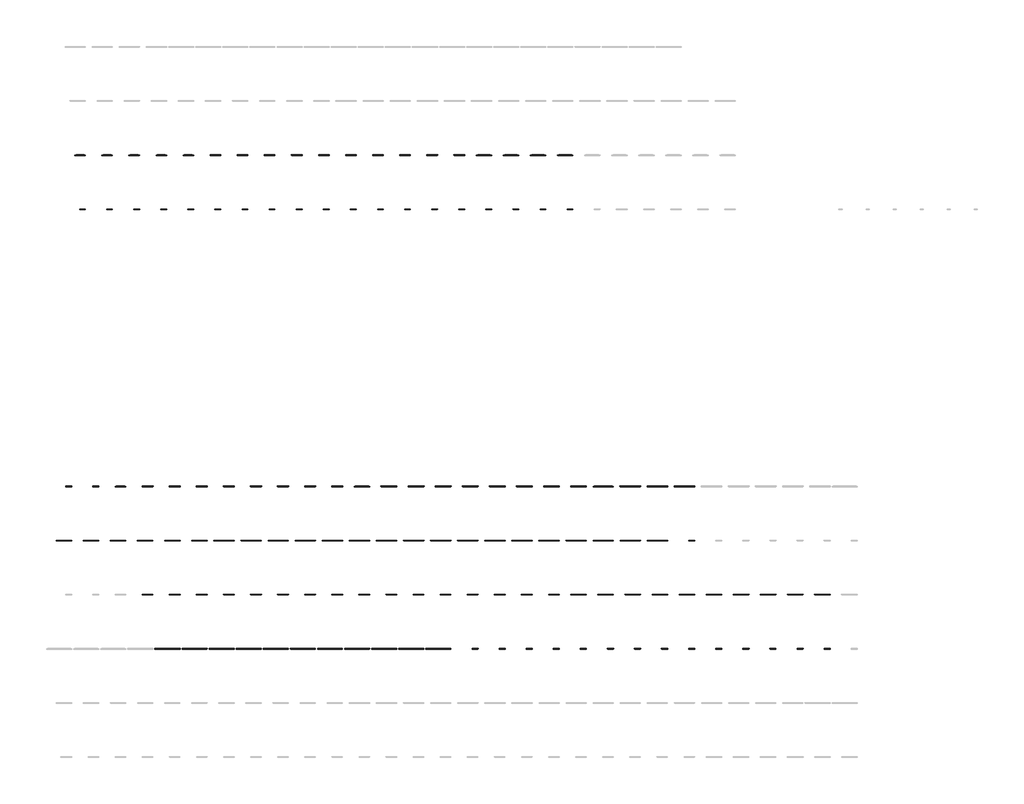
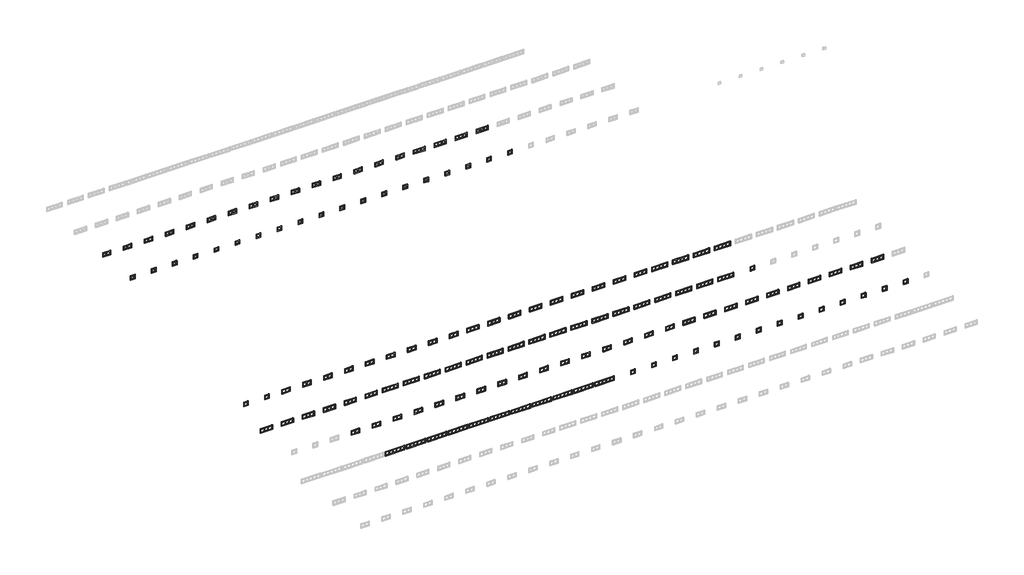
# One storey, part 3 of 18: 137 proxies.
"""IFC4 building model written with IfcOpenShell, lengths in millimetres."""

from ifc_helpers import new_model, si_unit, origin, place, context, project, spatial, transform, mapped, element, save
from components import electrical_fixtures_237118b2, electrical_fixtures_5dbdf89e, electrical_fixtures_96edac8a, electrical_fixtures_84155418, electrical_fixtures_1861e07e, electrical_fixtures_aad822a1, electrical_fixtures_fd6ee7d0, electrical_fixtures_76136ebe, electrical_fixtures_1d4d6cfc, electrical_fixtures_f44dfe37, electrical_fixtures_55454e97, electrical_fixtures_1388bda7, electrical_fixtures_9b7fceb6, electrical_fixtures_3838953b, electrical_fixtures_62e152b0, electrical_fixtures_36178a4c, electrical_fixtures_b3d71306, electrical_fixtures_850c403c, electrical_fixtures_cb041ce0, electrical_fixtures_aba3774c, electrical_fixtures_dbfd30bd

model = new_model("IFC4")

# Units and contexts
model_context = context("Model", 3, world=origin())
ifc_project = project(units=[si_unit("LENGTHUNIT", "METRE", prefix="MILLI")], contexts=[model_context])

# Site, building, storey
site = spatial("IfcSite", under=ifc_project)
building = spatial("IfcBuilding", under=site)
storey = spatial("IfcBuildingStorey", under=building, Name="Этаж 01", Elevation=0.0)

# Proxies
placement = place(None, origin())
electrical_fixtures_shape = electrical_fixtures_237118b2(model_context)
element("IfcBuildingElementProxy", 1, Name="IEK_Brite_Рамка : x5_РУ-5-Бр беж. рифленый", ObjectType="IEK_Brite_Рамка : x5_РУ-5-Бр беж. рифленый", at=placement, inside=storey, context=model_context, shape_type="MappedRepresentation", body=[
    mapped(electrical_fixtures_shape, transform((2020.0, -15400.0, 0.0), x_axis=(1.0, 0.0, 0.0), y_axis=(0.0, 1.0, 0.0), z_axis=(0.0, 0.0, 1.0))),
])
electrical_fixtures_2_shape = electrical_fixtures_5dbdf89e(model_context)
element("IfcBuildingElementProxy", 2, Name="IEK_Brite_Рамка : x5_РУ-5-БрБ бел.", ObjectType="IEK_Brite_Рамка : x5_РУ-5-БрБ бел.", at=placement, inside=storey, context=model_context, shape_type="MappedRepresentation", body=[
    mapped(electrical_fixtures_2_shape, transform((2420.0, -15400.0, 0.0), x_axis=(1.0, 0.0, 0.0), y_axis=(0.0, 1.0, 0.0), z_axis=(0.0, 0.0, 1.0))),
])
element("IfcBuildingElementProxy", 3, Name="IEK_Brite_Рамка : x5_РУ-5-БрЧ черн.", ObjectType="IEK_Brite_Рамка : x5_РУ-5-БрЧ черн.", at=placement, inside=storey, context=model_context, shape_type="MappedRepresentation", body=[
    mapped(electrical_fixtures_2_shape, transform((2820.0, -15400.0, 0.0), x_axis=(1.0, 0.0, 0.0), y_axis=(0.0, 1.0, 0.0), z_axis=(0.0, 0.0, 1.0))),
])
element("IfcBuildingElementProxy", 4, Name="IEK_Brite_Рамка : x5_РУ-5-БрКр беж.", ObjectType="IEK_Brite_Рамка : x5_РУ-5-БрКр беж.", at=placement, inside=storey, context=model_context, shape_type="MappedRepresentation", body=[
    mapped(electrical_fixtures_2_shape, transform((3220.0, -15400.0, 0.0), x_axis=(1.0, 0.0, 0.0), y_axis=(0.0, 1.0, 0.0), z_axis=(0.0, 0.0, 1.0))),
])
element("IfcBuildingElementProxy", 5, Name="IEK_Brite_Рамка : x5_РУ-5-БрМ мар.", ObjectType="IEK_Brite_Рамка : x5_РУ-5-БрМ мар.", at=placement, inside=storey, context=model_context, shape_type="MappedRepresentation", body=[
    mapped(electrical_fixtures_2_shape, transform((3620.0, -15400.0, 0.0), x_axis=(1.0, 0.0, 0.0), y_axis=(0.0, 1.0, 0.0), z_axis=(0.0, 0.0, 1.0))),
])
element("IfcBuildingElementProxy", 6, Name="IEK_Brite_Рамка : x5_РУ-5-БрЖ жемч.", ObjectType="IEK_Brite_Рамка : x5_РУ-5-БрЖ жемч.", at=placement, inside=storey, context=model_context, shape_type="MappedRepresentation", body=[
    mapped(electrical_fixtures_2_shape, transform((4020.0, -15400.0, 0.0), x_axis=(1.0, 0.0, 0.0), y_axis=(0.0, 1.0, 0.0), z_axis=(0.0, 0.0, 1.0))),
])
element("IfcBuildingElementProxy", 7, Name="IEK_Brite_Рамка : x5_РУ-5-БрШ шамп.", ObjectType="IEK_Brite_Рамка : x5_РУ-5-БрШ шамп.", at=placement, inside=storey, context=model_context, shape_type="MappedRepresentation", body=[
    mapped(electrical_fixtures_2_shape, transform((4420.0, -15400.0, 0.0), x_axis=(1.0, 0.0, 0.0), y_axis=(0.0, 1.0, 0.0), z_axis=(0.0, 0.0, 1.0))),
])
element("IfcBuildingElementProxy", 8, Name="IEK_Brite_Рамка : x5_РУ-5-БрТБ бр.", ObjectType="IEK_Brite_Рамка : x5_РУ-5-БрТБ бр.", at=placement, inside=storey, context=model_context, shape_type="MappedRepresentation", body=[
    mapped(electrical_fixtures_2_shape, transform((4820.0, -15400.0, 0.0), x_axis=(1.0, 0.0, 0.0), y_axis=(0.0, 1.0, 0.0), z_axis=(0.0, 0.0, 1.0))),
])
element("IfcBuildingElementProxy", 9, Name="IEK_Brite_Рамка : x5_РУ-5-БрС сталь", ObjectType="IEK_Brite_Рамка : x5_РУ-5-БрС сталь", at=placement, inside=storey, context=model_context, shape_type="MappedRepresentation", body=[
    mapped(electrical_fixtures_2_shape, transform((5220.0, -15400.0, 0.0), x_axis=(1.0, 0.0, 0.0), y_axis=(0.0, 1.0, 0.0), z_axis=(0.0, 0.0, 1.0))),
])
element("IfcBuildingElementProxy", 10, Name="IEK_Brite_Рамка : x5_РУ-5-БрА алюм.", ObjectType="IEK_Brite_Рамка : x5_РУ-5-БрА алюм.", at=placement, inside=storey, context=model_context, shape_type="MappedRepresentation", body=[
    mapped(electrical_fixtures_2_shape, transform((5620.0, -15400.0, 0.0), x_axis=(1.0, 0.0, 0.0), y_axis=(0.0, 1.0, 0.0), z_axis=(0.0, 0.0, 1.0))),
])
element("IfcBuildingElementProxy", 11, Name="IEK_Brite_Рамка : x5_РУ-5-БрГ граф.", ObjectType="IEK_Brite_Рамка : x5_РУ-5-БрГ граф.", at=placement, inside=storey, context=model_context, shape_type="MappedRepresentation", body=[
    mapped(electrical_fixtures_2_shape, transform((6020.0, -15400.0, 0.0), x_axis=(1.0, 0.0, 0.0), y_axis=(0.0, 1.0, 0.0), z_axis=(0.0, 0.0, 1.0))),
])
electrical_fixtures_3_shape = electrical_fixtures_96edac8a(model_context)
element("IfcBuildingElementProxy", 12, Name="IEK_Brite_Рамка : x1_РУ-1-2-Бр стекло бел. матовый", ObjectType="IEK_Brite_Рамка : x1_РУ-1-2-Бр стекло бел. матовый", at=placement, inside=storey, context=model_context, shape_type="MappedRepresentation", body=[
    mapped(electrical_fixtures_3_shape, transform((6420.0, -15400.0, 0.0), x_axis=(1.0, 0.0, 0.0), y_axis=(0.0, 1.0, 0.0), z_axis=(0.0, 0.0, 1.0))),
])
element("IfcBuildingElementProxy", 13, Name="IEK_Brite_Рамка : x1_РУ-1-2-Бр стекло черн. матовый", ObjectType="IEK_Brite_Рамка : x1_РУ-1-2-Бр стекло черн. матовый", at=placement, inside=storey, context=model_context, shape_type="MappedRepresentation", body=[
    mapped(electrical_fixtures_3_shape, transform((6820.0, -15400.0, 0.0), x_axis=(1.0, 0.0, 0.0), y_axis=(0.0, 1.0, 0.0), z_axis=(0.0, 0.0, 1.0))),
])
element("IfcBuildingElementProxy", 14, Name="IEK_Brite_Рамка : x1_РУ-1-2-Бр стекло розовый матовый", ObjectType="IEK_Brite_Рамка : x1_РУ-1-2-Бр стекло розовый матовый", at=placement, inside=storey, context=model_context, shape_type="MappedRepresentation", body=[
    mapped(electrical_fixtures_3_shape, transform((7220.0, -15400.0, 0.0), x_axis=(1.0, 0.0, 0.0), y_axis=(0.0, 1.0, 0.0), z_axis=(0.0, 0.0, 1.0))),
])
element("IfcBuildingElementProxy", 15, Name="IEK_Brite_Рамка : x1_РУ-1-2-Бр стекло маренго матовый", ObjectType="IEK_Brite_Рамка : x1_РУ-1-2-Бр стекло маренго матовый", at=placement, inside=storey, context=model_context, shape_type="MappedRepresentation", body=[
    mapped(electrical_fixtures_3_shape, transform((7620.0, -15400.0, 0.0), x_axis=(1.0, 0.0, 0.0), y_axis=(0.0, 1.0, 0.0), z_axis=(0.0, 0.0, 1.0))),
])
element("IfcBuildingElementProxy", 16, Name="IEK_Brite_Рамка : x1_РУ-1-2-БрП стекло персиковый матовый", ObjectType="IEK_Brite_Рамка : x1_РУ-1-2-БрП стекло персиковый матовый", at=placement, inside=storey, context=model_context, shape_type="MappedRepresentation", body=[
    mapped(electrical_fixtures_3_shape, transform((8020.0, -15400.0, 0.0), x_axis=(1.0, 0.0, 0.0), y_axis=(0.0, 1.0, 0.0), z_axis=(0.0, 0.0, 1.0))),
])
electrical_fixtures_4_shape = electrical_fixtures_84155418(model_context)
element("IfcBuildingElementProxy", 17, Name="IEK_Brite_Рамка : x1_РУ-1-2-Бр стекло бел. RE", ObjectType="IEK_Brite_Рамка : x1_РУ-1-2-Бр стекло бел. RE", at=placement, inside=storey, context=model_context, shape_type="MappedRepresentation", body=[
    mapped(electrical_fixtures_4_shape, transform((8420.0, -15400.0, 0.0), x_axis=(1.0, 0.0, 0.0), y_axis=(0.0, 1.0, 0.0), z_axis=(0.0, 0.0, 1.0))),
])
element("IfcBuildingElementProxy", 18, Name="IEK_Brite_Рамка : x1_РУ-1-2-Бр стекло черн. RE", ObjectType="IEK_Brite_Рамка : x1_РУ-1-2-Бр стекло черн. RE", at=placement, inside=storey, context=model_context, shape_type="MappedRepresentation", body=[
    mapped(electrical_fixtures_4_shape, transform((8820.0, -15400.0, 0.0), x_axis=(1.0, 0.0, 0.0), y_axis=(0.0, 1.0, 0.0), z_axis=(0.0, 0.0, 1.0))),
])
element("IfcBuildingElementProxy", 19, Name="IEK_Brite_Рамка : x1_РУ-1-2-Бр стекло эко грин", ObjectType="IEK_Brite_Рамка : x1_РУ-1-2-Бр стекло эко грин", at=placement, inside=storey, context=model_context, shape_type="MappedRepresentation", body=[
    mapped(electrical_fixtures_4_shape, transform((9220.0, -15400.0, 0.0), x_axis=(1.0, 0.0, 0.0), y_axis=(0.0, 1.0, 0.0), z_axis=(0.0, 0.0, 1.0))),
])
element("IfcBuildingElementProxy", 20, Name="IEK_Brite_Рамка : x1_РУ-1-2-Бр стекло графит RE", ObjectType="IEK_Brite_Рамка : x1_РУ-1-2-Бр стекло графит RE", at=placement, inside=storey, context=model_context, shape_type="MappedRepresentation", body=[
    mapped(electrical_fixtures_4_shape, transform((9620.0, -15400.0, 0.0), x_axis=(1.0, 0.0, 0.0), y_axis=(0.0, 1.0, 0.0), z_axis=(0.0, 0.0, 1.0))),
])
element("IfcBuildingElementProxy", 21, Name="IEK_Brite_Рамка : x1_РУ-1-2-Бр стекло дым. RE", ObjectType="IEK_Brite_Рамка : x1_РУ-1-2-Бр стекло дым. RE", at=placement, inside=storey, context=model_context, shape_type="MappedRepresentation", body=[
    mapped(electrical_fixtures_4_shape, transform((10020.0, -15400.0, 0.0), x_axis=(1.0, 0.0, 0.0), y_axis=(0.0, 1.0, 0.0), z_axis=(0.0, 0.0, 1.0))),
])
element("IfcBuildingElementProxy", 22, Name="IEK_Brite_Рамка : x1_РУ-1-2-Бр стекло песчаный RE", ObjectType="IEK_Brite_Рамка : x1_РУ-1-2-Бр стекло песчаный RE", at=placement, inside=storey, context=model_context, shape_type="MappedRepresentation", body=[
    mapped(electrical_fixtures_4_shape, transform((10420.0, -15400.0, 0.0), x_axis=(1.0, 0.0, 0.0), y_axis=(0.0, 1.0, 0.0), z_axis=(0.0, 0.0, 1.0))),
])
element("IfcBuildingElementProxy", 23, Name="IEK_Brite_Рамка : x1_РУ-1-2-БрБ стекло бел.", ObjectType="IEK_Brite_Рамка : x1_РУ-1-2-БрБ стекло бел.", at=placement, inside=storey, context=model_context, shape_type="MappedRepresentation", body=[
    mapped(electrical_fixtures_3_shape, transform((10820.0, -15400.0, 0.0), x_axis=(1.0, 0.0, 0.0), y_axis=(0.0, 1.0, 0.0), z_axis=(0.0, 0.0, 1.0))),
])
element("IfcBuildingElementProxy", 24, Name="IEK_Brite_Рамка : x1_РУ-1-2-БрЧ стекло черн.", ObjectType="IEK_Brite_Рамка : x1_РУ-1-2-БрЧ стекло черн.", at=placement, inside=storey, context=model_context, shape_type="MappedRepresentation", body=[
    mapped(electrical_fixtures_3_shape, transform((11220.0, -15400.0, 0.0), x_axis=(1.0, 0.0, 0.0), y_axis=(0.0, 1.0, 0.0), z_axis=(0.0, 0.0, 1.0))),
])
element("IfcBuildingElementProxy", 25, Name="IEK_Brite_Рамка : x1_РУ-1-2-БрСе стекло сер.", ObjectType="IEK_Brite_Рамка : x1_РУ-1-2-БрСе стекло сер.", at=placement, inside=storey, context=model_context, shape_type="MappedRepresentation", body=[
    mapped(electrical_fixtures_3_shape, transform((11620.0, -15400.0, 0.0), x_axis=(1.0, 0.0, 0.0), y_axis=(0.0, 1.0, 0.0), z_axis=(0.0, 0.0, 1.0))),
])
electrical_fixtures_5_shape = electrical_fixtures_1861e07e(model_context)
element("IfcBuildingElementProxy", 26, Name="IEK_Brite_Рамка : x2_РУ-2-2-Бр стекло черн. матовый", ObjectType="IEK_Brite_Рамка : x2_РУ-2-2-Бр стекло черн. матовый", at=placement, inside=storey, context=model_context, shape_type="MappedRepresentation", body=[
    mapped(electrical_fixtures_5_shape, transform((1620.0, -14600.0, 0.0), x_axis=(1.0, 0.0, 0.0), y_axis=(0.0, 1.0, 0.0), z_axis=(0.0, 0.0, 1.0))),
])
element("IfcBuildingElementProxy", 27, Name="IEK_Brite_Рамка : x2_РУ-2-2-Бр стекло розовый матовый", ObjectType="IEK_Brite_Рамка : x2_РУ-2-2-Бр стекло розовый матовый", at=placement, inside=storey, context=model_context, shape_type="MappedRepresentation", body=[
    mapped(electrical_fixtures_5_shape, transform((2020.0, -14600.0, 0.0), x_axis=(1.0, 0.0, 0.0), y_axis=(0.0, 1.0, 0.0), z_axis=(0.0, 0.0, 1.0))),
])
element("IfcBuildingElementProxy", 28, Name="IEK_Brite_Рамка : x2_РУ-2-2-Бр стекло маренго матовый", ObjectType="IEK_Brite_Рамка : x2_РУ-2-2-Бр стекло маренго матовый", at=placement, inside=storey, context=model_context, shape_type="MappedRepresentation", body=[
    mapped(electrical_fixtures_5_shape, transform((2420.0, -14600.0, 0.0), x_axis=(1.0, 0.0, 0.0), y_axis=(0.0, 1.0, 0.0), z_axis=(0.0, 0.0, 1.0))),
])
element("IfcBuildingElementProxy", 29, Name="IEK_Brite_Рамка : x2_РУ-2-2-БрП стекло персиковый матовый", ObjectType="IEK_Brite_Рамка : x2_РУ-2-2-БрП стекло персиковый матовый", at=placement, inside=storey, context=model_context, shape_type="MappedRepresentation", body=[
    mapped(electrical_fixtures_5_shape, transform((2820.0, -14600.0, 0.0), x_axis=(1.0, 0.0, 0.0), y_axis=(0.0, 1.0, 0.0), z_axis=(0.0, 0.0, 1.0))),
])
electrical_fixtures_6_shape = electrical_fixtures_aad822a1(model_context)
element("IfcBuildingElementProxy", 30, Name="IEK_Brite_Рамка : x2_РУ-2-2-Бр стекло бел. RE", ObjectType="IEK_Brite_Рамка : x2_РУ-2-2-Бр стекло бел. RE", at=placement, inside=storey, context=model_context, shape_type="MappedRepresentation", body=[
    mapped(electrical_fixtures_6_shape, transform((3220.0, -14600.0, 0.0), x_axis=(1.0, 0.0, 0.0), y_axis=(0.0, 1.0, 0.0), z_axis=(0.0, 0.0, 1.0))),
])
element("IfcBuildingElementProxy", 31, Name="IEK_Brite_Рамка : x2_РУ-2-2-Бр стекло черн. RE", ObjectType="IEK_Brite_Рамка : x2_РУ-2-2-Бр стекло черн. RE", at=placement, inside=storey, context=model_context, shape_type="MappedRepresentation", body=[
    mapped(electrical_fixtures_6_shape, transform((3620.0, -14600.0, 0.0), x_axis=(1.0, 0.0, 0.0), y_axis=(0.0, 1.0, 0.0), z_axis=(0.0, 0.0, 1.0))),
])
element("IfcBuildingElementProxy", 32, Name="IEK_Brite_Рамка : x2_РУ-2-2-Бр стекло эко грин", ObjectType="IEK_Brite_Рамка : x2_РУ-2-2-Бр стекло эко грин", at=placement, inside=storey, context=model_context, shape_type="MappedRepresentation", body=[
    mapped(electrical_fixtures_6_shape, transform((4020.0, -14600.0, 0.0), x_axis=(1.0, 0.0, 0.0), y_axis=(0.0, 1.0, 0.0), z_axis=(0.0, 0.0, 1.0))),
])
element("IfcBuildingElementProxy", 33, Name="IEK_Brite_Рамка : x2_РУ-2-2-Бр стекло графит RE", ObjectType="IEK_Brite_Рамка : x2_РУ-2-2-Бр стекло графит RE", at=placement, inside=storey, context=model_context, shape_type="MappedRepresentation", body=[
    mapped(electrical_fixtures_6_shape, transform((4420.0, -14600.0, 0.0), x_axis=(1.0, 0.0, 0.0), y_axis=(0.0, 1.0, 0.0), z_axis=(0.0, 0.0, 1.0))),
])
element("IfcBuildingElementProxy", 34, Name="IEK_Brite_Рамка : x2_РУ-2-2-Бр стекло дым. RE", ObjectType="IEK_Brite_Рамка : x2_РУ-2-2-Бр стекло дым. RE", at=placement, inside=storey, context=model_context, shape_type="MappedRepresentation", body=[
    mapped(electrical_fixtures_6_shape, transform((4820.0, -14600.0, 0.0), x_axis=(1.0, 0.0, 0.0), y_axis=(0.0, 1.0, 0.0), z_axis=(0.0, 0.0, 1.0))),
])
element("IfcBuildingElementProxy", 35, Name="IEK_Brite_Рамка : x2_РУ-2-2-Бр стекло песчаный RE", ObjectType="IEK_Brite_Рамка : x2_РУ-2-2-Бр стекло песчаный RE", at=placement, inside=storey, context=model_context, shape_type="MappedRepresentation", body=[
    mapped(electrical_fixtures_6_shape, transform((5220.0, -14600.0, 0.0), x_axis=(1.0, 0.0, 0.0), y_axis=(0.0, 1.0, 0.0), z_axis=(0.0, 0.0, 1.0))),
])
element("IfcBuildingElementProxy", 36, Name="IEK_Brite_Рамка : x2_РУ-2-2-БрБ стекло бел.", ObjectType="IEK_Brite_Рамка : x2_РУ-2-2-БрБ стекло бел.", at=placement, inside=storey, context=model_context, shape_type="MappedRepresentation", body=[
    mapped(electrical_fixtures_5_shape, transform((5620.0, -14600.0, 0.0), x_axis=(1.0, 0.0, 0.0), y_axis=(0.0, 1.0, 0.0), z_axis=(0.0, 0.0, 1.0))),
])
element("IfcBuildingElementProxy", 37, Name="IEK_Brite_Рамка : x2_РУ-2-2-БрЧ стекло черн.", ObjectType="IEK_Brite_Рамка : x2_РУ-2-2-БрЧ стекло черн.", at=placement, inside=storey, context=model_context, shape_type="MappedRepresentation", body=[
    mapped(electrical_fixtures_5_shape, transform((6020.0, -14600.0, 0.0), x_axis=(1.0, 0.0, 0.0), y_axis=(0.0, 1.0, 0.0), z_axis=(0.0, 0.0, 1.0))),
])
element("IfcBuildingElementProxy", 38, Name="IEK_Brite_Рамка : x2_РУ-2-2-БрСе стекло сер.", ObjectType="IEK_Brite_Рамка : x2_РУ-2-2-БрСе стекло сер.", at=placement, inside=storey, context=model_context, shape_type="MappedRepresentation", body=[
    mapped(electrical_fixtures_5_shape, transform((6420.0, -14600.0, 0.0), x_axis=(1.0, 0.0, 0.0), y_axis=(0.0, 1.0, 0.0), z_axis=(0.0, 0.0, 1.0))),
])
element("IfcBuildingElementProxy", 39, Name="IEK_Brite_Рамка : x2_РУ-2-2-БрВа стекло ванильный", ObjectType="IEK_Brite_Рамка : x2_РУ-2-2-БрВа стекло ванильный", at=placement, inside=storey, context=model_context, shape_type="MappedRepresentation", body=[
    mapped(electrical_fixtures_5_shape, transform((6820.0, -14600.0, 0.0), x_axis=(1.0, 0.0, 0.0), y_axis=(0.0, 1.0, 0.0), z_axis=(0.0, 0.0, 1.0))),
])
element("IfcBuildingElementProxy", 40, Name="IEK_Brite_Рамка : x2_РУ-2-2-БрД стекло дым.", ObjectType="IEK_Brite_Рамка : x2_РУ-2-2-БрД стекло дым.", at=placement, inside=storey, context=model_context, shape_type="MappedRepresentation", body=[
    mapped(electrical_fixtures_5_shape, transform((7220.0, -14600.0, 0.0), x_axis=(1.0, 0.0, 0.0), y_axis=(0.0, 1.0, 0.0), z_axis=(0.0, 0.0, 1.0))),
])
element("IfcBuildingElementProxy", 41, Name="IEK_Brite_Рамка : x2_РУ-2-2-БрТБ стекло бр.", ObjectType="IEK_Brite_Рамка : x2_РУ-2-2-БрТБ стекло бр.", at=placement, inside=storey, context=model_context, shape_type="MappedRepresentation", body=[
    mapped(electrical_fixtures_5_shape, transform((7620.0, -14600.0, 0.0), x_axis=(1.0, 0.0, 0.0), y_axis=(0.0, 1.0, 0.0), z_axis=(0.0, 0.0, 1.0))),
])
electrical_fixtures_7_shape = electrical_fixtures_fd6ee7d0(model_context)
element("IfcBuildingElementProxy", 42, Name="IEK_Brite_Рамка : x3_РУ-3-2-Бр стекло бел. матовый", ObjectType="IEK_Brite_Рамка : x3_РУ-3-2-Бр стекло бел. матовый", at=placement, inside=storey, context=model_context, shape_type="MappedRepresentation", body=[
    mapped(electrical_fixtures_7_shape, transform((8020.0, -14600.0, 0.0), x_axis=(1.0, 0.0, 0.0), y_axis=(0.0, 1.0, 0.0), z_axis=(0.0, 0.0, 1.0))),
])
element("IfcBuildingElementProxy", 43, Name="IEK_Brite_Рамка : x3_РУ-3-2-Бр стекло черн. матовый", ObjectType="IEK_Brite_Рамка : x3_РУ-3-2-Бр стекло черн. матовый", at=placement, inside=storey, context=model_context, shape_type="MappedRepresentation", body=[
    mapped(electrical_fixtures_7_shape, transform((8420.0, -14600.0, 0.0), x_axis=(1.0, 0.0, 0.0), y_axis=(0.0, 1.0, 0.0), z_axis=(0.0, 0.0, 1.0))),
])
element("IfcBuildingElementProxy", 44, Name="IEK_Brite_Рамка : x3_РУ-3-2-Бр стекло розовый матовый", ObjectType="IEK_Brite_Рамка : x3_РУ-3-2-Бр стекло розовый матовый", at=placement, inside=storey, context=model_context, shape_type="MappedRepresentation", body=[
    mapped(electrical_fixtures_7_shape, transform((8820.0, -14600.0, 0.0), x_axis=(1.0, 0.0, 0.0), y_axis=(0.0, 1.0, 0.0), z_axis=(0.0, 0.0, 1.0))),
])
element("IfcBuildingElementProxy", 45, Name="IEK_Brite_Рамка : x3_РУ-3-2-Бр стекло маренго матовый", ObjectType="IEK_Brite_Рамка : x3_РУ-3-2-Бр стекло маренго матовый", at=placement, inside=storey, context=model_context, shape_type="MappedRepresentation", body=[
    mapped(electrical_fixtures_7_shape, transform((9220.0, -14600.0, 0.0), x_axis=(1.0, 0.0, 0.0), y_axis=(0.0, 1.0, 0.0), z_axis=(0.0, 0.0, 1.0))),
])
element("IfcBuildingElementProxy", 46, Name="IEK_Brite_Рамка : x3_РУ-3-2-БрП стекло персиковый матовый", ObjectType="IEK_Brite_Рамка : x3_РУ-3-2-БрП стекло персиковый матовый", at=placement, inside=storey, context=model_context, shape_type="MappedRepresentation", body=[
    mapped(electrical_fixtures_7_shape, transform((9620.0, -14600.0, 0.0), x_axis=(1.0, 0.0, 0.0), y_axis=(0.0, 1.0, 0.0), z_axis=(0.0, 0.0, 1.0))),
])
electrical_fixtures_8_shape = electrical_fixtures_76136ebe(model_context)
element("IfcBuildingElementProxy", 47, Name="IEK_Brite_Рамка : x3_РУ-3-2-Бр стекло бел. RE", ObjectType="IEK_Brite_Рамка : x3_РУ-3-2-Бр стекло бел. RE", at=placement, inside=storey, context=model_context, shape_type="MappedRepresentation", body=[
    mapped(electrical_fixtures_8_shape, transform((10020.0, -14600.0, 0.0), x_axis=(1.0, 0.0, 0.0), y_axis=(0.0, 1.0, 0.0), z_axis=(0.0, 0.0, 1.0))),
])
element("IfcBuildingElementProxy", 48, Name="IEK_Brite_Рамка : x3_РУ-3-2-Бр стекло черн. RE", ObjectType="IEK_Brite_Рамка : x3_РУ-3-2-Бр стекло черн. RE", at=placement, inside=storey, context=model_context, shape_type="MappedRepresentation", body=[
    mapped(electrical_fixtures_8_shape, transform((10420.0, -14600.0, 0.0), x_axis=(1.0, 0.0, 0.0), y_axis=(0.0, 1.0, 0.0), z_axis=(0.0, 0.0, 1.0))),
])
element("IfcBuildingElementProxy", 49, Name="IEK_Brite_Рамка : x3_РУ-3-2-Бр стекло эко грин", ObjectType="IEK_Brite_Рамка : x3_РУ-3-2-Бр стекло эко грин", at=placement, inside=storey, context=model_context, shape_type="MappedRepresentation", body=[
    mapped(electrical_fixtures_8_shape, transform((10820.0, -14600.0, 0.0), x_axis=(1.0, 0.0, 0.0), y_axis=(0.0, 1.0, 0.0), z_axis=(0.0, 0.0, 1.0))),
])
element("IfcBuildingElementProxy", 50, Name="IEK_Brite_Рамка : x3_РУ-3-2-Бр стекло графит RE", ObjectType="IEK_Brite_Рамка : x3_РУ-3-2-Бр стекло графит RE", at=placement, inside=storey, context=model_context, shape_type="MappedRepresentation", body=[
    mapped(electrical_fixtures_8_shape, transform((11220.0, -14600.0, 0.0), x_axis=(1.0, 0.0, 0.0), y_axis=(0.0, 1.0, 0.0), z_axis=(0.0, 0.0, 1.0))),
])
element("IfcBuildingElementProxy", 51, Name="IEK_Brite_Рамка : x3_РУ-3-2-Бр стекло дым. RE", ObjectType="IEK_Brite_Рамка : x3_РУ-3-2-Бр стекло дым. RE", at=placement, inside=storey, context=model_context, shape_type="MappedRepresentation", body=[
    mapped(electrical_fixtures_8_shape, transform((11620.0, -14600.0, 0.0), x_axis=(1.0, 0.0, 0.0), y_axis=(0.0, 1.0, 0.0), z_axis=(0.0, 0.0, 1.0))),
])
element("IfcBuildingElementProxy", 52, Name="IEK_Brite_Рамка : x3_РУ-3-2-БрБ стекло бел.", ObjectType="IEK_Brite_Рамка : x3_РУ-3-2-БрБ стекло бел.", at=placement, inside=storey, context=model_context, shape_type="MappedRepresentation", body=[
    mapped(electrical_fixtures_7_shape, transform((420.0, -13800.0, 0.0), x_axis=(1.0, 0.0, 0.0), y_axis=(0.0, 1.0, 0.0), z_axis=(0.0, 0.0, 1.0))),
])
element("IfcBuildingElementProxy", 53, Name="IEK_Brite_Рамка : x3_РУ-3-2-БрЧ стекло черн.", ObjectType="IEK_Brite_Рамка : x3_РУ-3-2-БрЧ стекло черн.", at=placement, inside=storey, context=model_context, shape_type="MappedRepresentation", body=[
    mapped(electrical_fixtures_7_shape, transform((820.0, -13800.0, 0.0), x_axis=(1.0, 0.0, 0.0), y_axis=(0.0, 1.0, 0.0), z_axis=(0.0, 0.0, 1.0))),
])
element("IfcBuildingElementProxy", 54, Name="IEK_Brite_Рамка : x3_РУ-3-2-БрСе стекло сер.", ObjectType="IEK_Brite_Рамка : x3_РУ-3-2-БрСе стекло сер.", at=placement, inside=storey, context=model_context, shape_type="MappedRepresentation", body=[
    mapped(electrical_fixtures_7_shape, transform((1220.0, -13800.0, 0.0), x_axis=(1.0, 0.0, 0.0), y_axis=(0.0, 1.0, 0.0), z_axis=(0.0, 0.0, 1.0))),
])
element("IfcBuildingElementProxy", 55, Name="IEK_Brite_Рамка : x3_РУ-3-2-БрВа стекло ванильный", ObjectType="IEK_Brite_Рамка : x3_РУ-3-2-БрВа стекло ванильный", at=placement, inside=storey, context=model_context, shape_type="MappedRepresentation", body=[
    mapped(electrical_fixtures_7_shape, transform((1620.0, -13800.0, 0.0), x_axis=(1.0, 0.0, 0.0), y_axis=(0.0, 1.0, 0.0), z_axis=(0.0, 0.0, 1.0))),
])
element("IfcBuildingElementProxy", 56, Name="IEK_Brite_Рамка : x3_РУ-3-2-БрД стекло дым.", ObjectType="IEK_Brite_Рамка : x3_РУ-3-2-БрД стекло дым.", at=placement, inside=storey, context=model_context, shape_type="MappedRepresentation", body=[
    mapped(electrical_fixtures_7_shape, transform((2020.0, -13800.0, 0.0), x_axis=(1.0, 0.0, 0.0), y_axis=(0.0, 1.0, 0.0), z_axis=(0.0, 0.0, 1.0))),
])
element("IfcBuildingElementProxy", 57, Name="IEK_Brite_Рамка : x3_РУ-3-2-БрТБ стекло бр.", ObjectType="IEK_Brite_Рамка : x3_РУ-3-2-БрТБ стекло бр.", at=placement, inside=storey, context=model_context, shape_type="MappedRepresentation", body=[
    mapped(electrical_fixtures_7_shape, transform((2420.0, -13800.0, 0.0), x_axis=(1.0, 0.0, 0.0), y_axis=(0.0, 1.0, 0.0), z_axis=(0.0, 0.0, 1.0))),
])
electrical_fixtures_9_shape = electrical_fixtures_1d4d6cfc(model_context)
element("IfcBuildingElementProxy", 58, Name="IEK_Brite_Рамка : x4_РУ-4-2-Бр стекло бел. матовый", ObjectType="IEK_Brite_Рамка : x4_РУ-4-2-Бр стекло бел. матовый", at=placement, inside=storey, context=model_context, shape_type="MappedRepresentation", body=[
    mapped(electrical_fixtures_9_shape, transform((2820.0, -13800.0, 0.0), x_axis=(1.0, 0.0, 0.0), y_axis=(0.0, 1.0, 0.0), z_axis=(0.0, 0.0, 1.0))),
])
element("IfcBuildingElementProxy", 59, Name="IEK_Brite_Рамка : x4_РУ-4-2-Бр стекло черн. матовый", ObjectType="IEK_Brite_Рамка : x4_РУ-4-2-Бр стекло черн. матовый", at=placement, inside=storey, context=model_context, shape_type="MappedRepresentation", body=[
    mapped(electrical_fixtures_9_shape, transform((3220.0, -13800.0, 0.0), x_axis=(1.0, 0.0, 0.0), y_axis=(0.0, 1.0, 0.0), z_axis=(0.0, 0.0, 1.0))),
])
element("IfcBuildingElementProxy", 60, Name="IEK_Brite_Рамка : x4_РУ-4-2-Бр стекло розовый матовый", ObjectType="IEK_Brite_Рамка : x4_РУ-4-2-Бр стекло розовый матовый", at=placement, inside=storey, context=model_context, shape_type="MappedRepresentation", body=[
    mapped(electrical_fixtures_9_shape, transform((3620.0, -13800.0, 0.0), x_axis=(1.0, 0.0, 0.0), y_axis=(0.0, 1.0, 0.0), z_axis=(0.0, 0.0, 1.0))),
])
element("IfcBuildingElementProxy", 61, Name="IEK_Brite_Рамка : x4_РУ-4-2-Бр стекло маренго матовый", ObjectType="IEK_Brite_Рамка : x4_РУ-4-2-Бр стекло маренго матовый", at=placement, inside=storey, context=model_context, shape_type="MappedRepresentation", body=[
    mapped(electrical_fixtures_9_shape, transform((4020.0, -13800.0, 0.0), x_axis=(1.0, 0.0, 0.0), y_axis=(0.0, 1.0, 0.0), z_axis=(0.0, 0.0, 1.0))),
])
element("IfcBuildingElementProxy", 62, Name="IEK_Brite_Рамка : x4_РУ-4-2-БрП стекло персиковый матовый", ObjectType="IEK_Brite_Рамка : x4_РУ-4-2-БрП стекло персиковый матовый", at=placement, inside=storey, context=model_context, shape_type="MappedRepresentation", body=[
    mapped(electrical_fixtures_9_shape, transform((4420.0, -13800.0, 0.0), x_axis=(1.0, 0.0, 0.0), y_axis=(0.0, 1.0, 0.0), z_axis=(0.0, 0.0, 1.0))),
])
electrical_fixtures_10_shape = electrical_fixtures_f44dfe37(model_context)
element("IfcBuildingElementProxy", 63, Name="IEK_Brite_Рамка : x4_РУ-4-2-Бр стекло бел. RE", ObjectType="IEK_Brite_Рамка : x4_РУ-4-2-Бр стекло бел. RE", at=placement, inside=storey, context=model_context, shape_type="MappedRepresentation", body=[
    mapped(electrical_fixtures_10_shape, transform((4820.0, -13800.0, 0.0), x_axis=(1.0, 0.0, 0.0), y_axis=(0.0, 1.0, 0.0), z_axis=(0.0, 0.0, 1.0))),
])
element("IfcBuildingElementProxy", 64, Name="IEK_Brite_Рамка : x4_РУ-4-2-Бр стекло черн. RE", ObjectType="IEK_Brite_Рамка : x4_РУ-4-2-Бр стекло черн. RE", at=placement, inside=storey, context=model_context, shape_type="MappedRepresentation", body=[
    mapped(electrical_fixtures_10_shape, transform((5220.0, -13800.0, 0.0), x_axis=(1.0, 0.0, 0.0), y_axis=(0.0, 1.0, 0.0), z_axis=(0.0, 0.0, 1.0))),
])
element("IfcBuildingElementProxy", 65, Name="IEK_Brite_Рамка : x4_РУ-4-2-Бр стекло эко грин", ObjectType="IEK_Brite_Рамка : x4_РУ-4-2-Бр стекло эко грин", at=placement, inside=storey, context=model_context, shape_type="MappedRepresentation", body=[
    mapped(electrical_fixtures_10_shape, transform((5620.0, -13800.0, 0.0), x_axis=(1.0, 0.0, 0.0), y_axis=(0.0, 1.0, 0.0), z_axis=(0.0, 0.0, 1.0))),
])
element("IfcBuildingElementProxy", 66, Name="IEK_Brite_Рамка : x4_РУ-4-2-Бр стекло графит RE", ObjectType="IEK_Brite_Рамка : x4_РУ-4-2-Бр стекло графит RE", at=placement, inside=storey, context=model_context, shape_type="MappedRepresentation", body=[
    mapped(electrical_fixtures_10_shape, transform((6020.0, -13800.0, 0.0), x_axis=(1.0, 0.0, 0.0), y_axis=(0.0, 1.0, 0.0), z_axis=(0.0, 0.0, 1.0))),
])
element("IfcBuildingElementProxy", 67, Name="IEK_Brite_Рамка : x4_РУ-4-2-Бр стекло дым. RE", ObjectType="IEK_Brite_Рамка : x4_РУ-4-2-Бр стекло дым. RE", at=placement, inside=storey, context=model_context, shape_type="MappedRepresentation", body=[
    mapped(electrical_fixtures_10_shape, transform((6420.0, -13800.0, 0.0), x_axis=(1.0, 0.0, 0.0), y_axis=(0.0, 1.0, 0.0), z_axis=(0.0, 0.0, 1.0))),
])
element("IfcBuildingElementProxy", 68, Name="IEK_Brite_Рамка : x4_РУ-4-2-Бр стекло песчаный RE", ObjectType="IEK_Brite_Рамка : x4_РУ-4-2-Бр стекло песчаный RE", at=placement, inside=storey, context=model_context, shape_type="MappedRepresentation", body=[
    mapped(electrical_fixtures_10_shape, transform((6820.0, -13800.0, 0.0), x_axis=(1.0, 0.0, 0.0), y_axis=(0.0, 1.0, 0.0), z_axis=(0.0, 0.0, 1.0))),
])
element("IfcBuildingElementProxy", 69, Name="IEK_Brite_Рамка : x4_РУ-4-2-БрБ стекло бел.", ObjectType="IEK_Brite_Рамка : x4_РУ-4-2-БрБ стекло бел.", at=placement, inside=storey, context=model_context, shape_type="MappedRepresentation", body=[
    mapped(electrical_fixtures_9_shape, transform((7220.0, -13800.0, 0.0), x_axis=(1.0, 0.0, 0.0), y_axis=(0.0, 1.0, 0.0), z_axis=(0.0, 0.0, 1.0))),
])
element("IfcBuildingElementProxy", 70, Name="IEK_Brite_Рамка : x4_РУ-4-2-БрЧ стекло черн.", ObjectType="IEK_Brite_Рамка : x4_РУ-4-2-БрЧ стекло черн.", at=placement, inside=storey, context=model_context, shape_type="MappedRepresentation", body=[
    mapped(electrical_fixtures_9_shape, transform((7620.0, -13800.0, 0.0), x_axis=(1.0, 0.0, 0.0), y_axis=(0.0, 1.0, 0.0), z_axis=(0.0, 0.0, 1.0))),
])
element("IfcBuildingElementProxy", 71, Name="IEK_Brite_Рамка : x4_РУ-4-2-БрСе стекло сер.", ObjectType="IEK_Brite_Рамка : x4_РУ-4-2-БрСе стекло сер.", at=placement, inside=storey, context=model_context, shape_type="MappedRepresentation", body=[
    mapped(electrical_fixtures_9_shape, transform((8020.0, -13800.0, 0.0), x_axis=(1.0, 0.0, 0.0), y_axis=(0.0, 1.0, 0.0), z_axis=(0.0, 0.0, 1.0))),
])
element("IfcBuildingElementProxy", 72, Name="IEK_Brite_Рамка : x4_РУ-4-2-БрВа стекло ванильный", ObjectType="IEK_Brite_Рамка : x4_РУ-4-2-БрВа стекло ванильный", at=placement, inside=storey, context=model_context, shape_type="MappedRepresentation", body=[
    mapped(electrical_fixtures_9_shape, transform((8420.0, -13800.0, 0.0), x_axis=(1.0, 0.0, 0.0), y_axis=(0.0, 1.0, 0.0), z_axis=(0.0, 0.0, 1.0))),
])
element("IfcBuildingElementProxy", 73, Name="IEK_Brite_Рамка : x4_РУ-4-2-БрД стекло дым.", ObjectType="IEK_Brite_Рамка : x4_РУ-4-2-БрД стекло дым.", at=placement, inside=storey, context=model_context, shape_type="MappedRepresentation", body=[
    mapped(electrical_fixtures_9_shape, transform((8820.0, -13800.0, 0.0), x_axis=(1.0, 0.0, 0.0), y_axis=(0.0, 1.0, 0.0), z_axis=(0.0, 0.0, 1.0))),
])
element("IfcBuildingElementProxy", 74, Name="IEK_Brite_Рамка : x4_РУ-4-2-БрТБ стекло бр.", ObjectType="IEK_Brite_Рамка : x4_РУ-4-2-БрТБ стекло бр.", at=placement, inside=storey, context=model_context, shape_type="MappedRepresentation", body=[
    mapped(electrical_fixtures_9_shape, transform((9220.0, -13800.0, 0.0), x_axis=(1.0, 0.0, 0.0), y_axis=(0.0, 1.0, 0.0), z_axis=(0.0, 0.0, 1.0))),
])
electrical_fixtures_11_shape = electrical_fixtures_55454e97(model_context)
element("IfcBuildingElementProxy", 75, Name="IEK_Brite_Рамка : x1_РУ-1-Бр металл хром-никель", ObjectType="IEK_Brite_Рамка : x1_РУ-1-Бр металл хром-никель", at=placement, inside=storey, context=model_context, shape_type="MappedRepresentation", body=[
    mapped(electrical_fixtures_11_shape, transform((9620.0, -13800.0, 0.0), x_axis=(1.0, 0.0, 0.0), y_axis=(0.0, 1.0, 0.0), z_axis=(0.0, 0.0, 1.0))),
])
element("IfcBuildingElementProxy", 76, Name="IEK_Brite_Рамка : x1_РУ-1-1-БрЧ металл черн.", ObjectType="IEK_Brite_Рамка : x1_РУ-1-1-БрЧ металл черн.", at=placement, inside=storey, context=model_context, shape_type="MappedRepresentation", body=[
    mapped(electrical_fixtures_3_shape, transform((420.0, -13000.0, 0.0), x_axis=(1.0, 0.0, 0.0), y_axis=(0.0, 1.0, 0.0), z_axis=(0.0, 0.0, 1.0))),
])
element("IfcBuildingElementProxy", 77, Name="IEK_Brite_Рамка : x1_РУ-1-1-БрА металл алюм.", ObjectType="IEK_Brite_Рамка : x1_РУ-1-1-БрА металл алюм.", at=placement, inside=storey, context=model_context, shape_type="MappedRepresentation", body=[
    mapped(electrical_fixtures_3_shape, transform((820.0, -13000.0, 0.0), x_axis=(1.0, 0.0, 0.0), y_axis=(0.0, 1.0, 0.0), z_axis=(0.0, 0.0, 1.0))),
])
electrical_fixtures_12_shape = electrical_fixtures_1388bda7(model_context)
element("IfcBuildingElementProxy", 78, Name="IEK_Brite_Рамка : x2_РУ-2-Бр металл хром-никель", ObjectType="IEK_Brite_Рамка : x2_РУ-2-Бр металл хром-никель", at=placement, inside=storey, context=model_context, shape_type="MappedRepresentation", body=[
    mapped(electrical_fixtures_12_shape, transform((1220.0, -13000.0, 0.0), x_axis=(1.0, 0.0, 0.0), y_axis=(0.0, 1.0, 0.0), z_axis=(0.0, 0.0, 1.0))),
])
element("IfcBuildingElementProxy", 79, Name="IEK_Brite_Рамка : x2_РУ-2-1-Бр металл черн. RE", ObjectType="IEK_Brite_Рамка : x2_РУ-2-1-Бр металл черн. RE", at=placement, inside=storey, context=model_context, shape_type="MappedRepresentation", body=[
    mapped(electrical_fixtures_6_shape, transform((1620.0, -13000.0, 0.0), x_axis=(1.0, 0.0, 0.0), y_axis=(0.0, 1.0, 0.0), z_axis=(0.0, 0.0, 1.0))),
])
element("IfcBuildingElementProxy", 80, Name="IEK_Brite_Рамка : x2_РУ-2-1-Бр металл алюм. RE", ObjectType="IEK_Brite_Рамка : x2_РУ-2-1-Бр металл алюм. RE", at=placement, inside=storey, context=model_context, shape_type="MappedRepresentation", body=[
    mapped(electrical_fixtures_6_shape, transform((2020.0, -13000.0, 0.0), x_axis=(1.0, 0.0, 0.0), y_axis=(0.0, 1.0, 0.0), z_axis=(0.0, 0.0, 1.0))),
])
element("IfcBuildingElementProxy", 81, Name="IEK_Brite_Рамка : x2_РУ-2-1-Бр металл титан RE", ObjectType="IEK_Brite_Рамка : x2_РУ-2-1-Бр металл титан RE", at=placement, inside=storey, context=model_context, shape_type="MappedRepresentation", body=[
    mapped(electrical_fixtures_6_shape, transform((2420.0, -13000.0, 0.0), x_axis=(1.0, 0.0, 0.0), y_axis=(0.0, 1.0, 0.0), z_axis=(0.0, 0.0, 1.0))),
])
element("IfcBuildingElementProxy", 82, Name="IEK_Brite_Рамка : x2_РУ-2-1-Бр металл латунь RE", ObjectType="IEK_Brite_Рамка : x2_РУ-2-1-Бр металл латунь RE", at=placement, inside=storey, context=model_context, shape_type="MappedRepresentation", body=[
    mapped(electrical_fixtures_6_shape, transform((2820.0, -13000.0, 0.0), x_axis=(1.0, 0.0, 0.0), y_axis=(0.0, 1.0, 0.0), z_axis=(0.0, 0.0, 1.0))),
])
element("IfcBuildingElementProxy", 83, Name="IEK_Brite_Рамка : x2_РУ-2-1-Бр металл коричн. RE", ObjectType="IEK_Brite_Рамка : x2_РУ-2-1-Бр металл коричн. RE", at=placement, inside=storey, context=model_context, shape_type="MappedRepresentation", body=[
    mapped(electrical_fixtures_6_shape, transform((3220.0, -13000.0, 0.0), x_axis=(1.0, 0.0, 0.0), y_axis=(0.0, 1.0, 0.0), z_axis=(0.0, 0.0, 1.0))),
])
element("IfcBuildingElementProxy", 84, Name="IEK_Brite_Рамка : x2_РУ-2-1-Бр металл шамп. RE", ObjectType="IEK_Brite_Рамка : x2_РУ-2-1-Бр металл шамп. RE", at=placement, inside=storey, context=model_context, shape_type="MappedRepresentation", body=[
    mapped(electrical_fixtures_6_shape, transform((3620.0, -13000.0, 0.0), x_axis=(1.0, 0.0, 0.0), y_axis=(0.0, 1.0, 0.0), z_axis=(0.0, 0.0, 1.0))),
])
element("IfcBuildingElementProxy", 85, Name="IEK_Brite_Рамка : x2_РУ-2-1-БрЧ металл черн.", ObjectType="IEK_Brite_Рамка : x2_РУ-2-1-БрЧ металл черн.", at=placement, inside=storey, context=model_context, shape_type="MappedRepresentation", body=[
    mapped(electrical_fixtures_6_shape, transform((4020.0, -13000.0, 0.0), x_axis=(1.0, 0.0, 0.0), y_axis=(0.0, 1.0, 0.0), z_axis=(0.0, 0.0, 1.0))),
])
element("IfcBuildingElementProxy", 86, Name="IEK_Brite_Рамка : x2_РУ-2-1-БрА металл алюм.", ObjectType="IEK_Brite_Рамка : x2_РУ-2-1-БрА металл алюм.", at=placement, inside=storey, context=model_context, shape_type="MappedRepresentation", body=[
    mapped(electrical_fixtures_6_shape, transform((4420.0, -13000.0, 0.0), x_axis=(1.0, 0.0, 0.0), y_axis=(0.0, 1.0, 0.0), z_axis=(0.0, 0.0, 1.0))),
])
electrical_fixtures_13_shape = electrical_fixtures_9b7fceb6(model_context)
element("IfcBuildingElementProxy", 87, Name="IEK_Brite_Рамка : x3_РУ-3-Бр металл хром-никель", ObjectType="IEK_Brite_Рамка : x3_РУ-3-Бр металл хром-никель", at=placement, inside=storey, context=model_context, shape_type="MappedRepresentation", body=[
    mapped(electrical_fixtures_13_shape, transform((4820.0, -13000.0, 0.0), x_axis=(1.0, 0.0, 0.0), y_axis=(0.0, 1.0, 0.0), z_axis=(0.0, 0.0, 1.0))),
])
element("IfcBuildingElementProxy", 88, Name="IEK_Brite_Рамка : x3_РУ-3-1-Бр металл черн. RE", ObjectType="IEK_Brite_Рамка : x3_РУ-3-1-Бр металл черн. RE", at=placement, inside=storey, context=model_context, shape_type="MappedRepresentation", body=[
    mapped(electrical_fixtures_8_shape, transform((5220.0, -13000.0, 0.0), x_axis=(1.0, 0.0, 0.0), y_axis=(0.0, 1.0, 0.0), z_axis=(0.0, 0.0, 1.0))),
])
element("IfcBuildingElementProxy", 89, Name="IEK_Brite_Рамка : x3_РУ-3-1-Бр металл алюм. RE", ObjectType="IEK_Brite_Рамка : x3_РУ-3-1-Бр металл алюм. RE", at=placement, inside=storey, context=model_context, shape_type="MappedRepresentation", body=[
    mapped(electrical_fixtures_8_shape, transform((5620.0, -13000.0, 0.0), x_axis=(1.0, 0.0, 0.0), y_axis=(0.0, 1.0, 0.0), z_axis=(0.0, 0.0, 1.0))),
])
element("IfcBuildingElementProxy", 90, Name="IEK_Brite_Рамка : x3_РУ-3-1-Бр металл титан RE", ObjectType="IEK_Brite_Рамка : x3_РУ-3-1-Бр металл титан RE", at=placement, inside=storey, context=model_context, shape_type="MappedRepresentation", body=[
    mapped(electrical_fixtures_8_shape, transform((6020.0, -13000.0, 0.0), x_axis=(1.0, 0.0, 0.0), y_axis=(0.0, 1.0, 0.0), z_axis=(0.0, 0.0, 1.0))),
])
element("IfcBuildingElementProxy", 91, Name="IEK_Brite_Рамка : x3_РУ-3-1-Бр металл латунь RE", ObjectType="IEK_Brite_Рамка : x3_РУ-3-1-Бр металл латунь RE", at=placement, inside=storey, context=model_context, shape_type="MappedRepresentation", body=[
    mapped(electrical_fixtures_8_shape, transform((6420.0, -13000.0, 0.0), x_axis=(1.0, 0.0, 0.0), y_axis=(0.0, 1.0, 0.0), z_axis=(0.0, 0.0, 1.0))),
])
element("IfcBuildingElementProxy", 92, Name="IEK_Brite_Рамка : x3_РУ-3-1-Бр металл коричн. RE", ObjectType="IEK_Brite_Рамка : x3_РУ-3-1-Бр металл коричн. RE", at=placement, inside=storey, context=model_context, shape_type="MappedRepresentation", body=[
    mapped(electrical_fixtures_8_shape, transform((6820.0, -13000.0, 0.0), x_axis=(1.0, 0.0, 0.0), y_axis=(0.0, 1.0, 0.0), z_axis=(0.0, 0.0, 1.0))),
])
element("IfcBuildingElementProxy", 93, Name="IEK_Brite_Рамка : x3_РУ-3-1-Бр металл шамп. RE", ObjectType="IEK_Brite_Рамка : x3_РУ-3-1-Бр металл шамп. RE", at=placement, inside=storey, context=model_context, shape_type="MappedRepresentation", body=[
    mapped(electrical_fixtures_8_shape, transform((7220.0, -13000.0, 0.0), x_axis=(1.0, 0.0, 0.0), y_axis=(0.0, 1.0, 0.0), z_axis=(0.0, 0.0, 1.0))),
])
element("IfcBuildingElementProxy", 94, Name="IEK_Brite_Рамка : x3_РУ-3-1-БрЧ металл черн.", ObjectType="IEK_Brite_Рамка : x3_РУ-3-1-БрЧ металл черн.", at=placement, inside=storey, context=model_context, shape_type="MappedRepresentation", body=[
    mapped(electrical_fixtures_7_shape, transform((7620.0, -13000.0, 0.0), x_axis=(1.0, 0.0, 0.0), y_axis=(0.0, 1.0, 0.0), z_axis=(0.0, 0.0, 1.0))),
])
element("IfcBuildingElementProxy", 95, Name="IEK_Brite_Рамка : x3_РУ-3-1-БрА металл алюм.", ObjectType="IEK_Brite_Рамка : x3_РУ-3-1-БрА металл алюм.", at=placement, inside=storey, context=model_context, shape_type="MappedRepresentation", body=[
    mapped(electrical_fixtures_7_shape, transform((8020.0, -13000.0, 0.0), x_axis=(1.0, 0.0, 0.0), y_axis=(0.0, 1.0, 0.0), z_axis=(0.0, 0.0, 1.0))),
])
electrical_fixtures_14_shape = electrical_fixtures_3838953b(model_context)
element("IfcBuildingElementProxy", 96, Name="IEK_Brite_Рамка : x4_РУ-4-Бр металл хром-никель", ObjectType="IEK_Brite_Рамка : x4_РУ-4-Бр металл хром-никель", at=placement, inside=storey, context=model_context, shape_type="MappedRepresentation", body=[
    mapped(electrical_fixtures_14_shape, transform((8420.0, -13000.0, 0.0), x_axis=(1.0, 0.0, 0.0), y_axis=(0.0, 1.0, 0.0), z_axis=(0.0, 0.0, 1.0))),
])
element("IfcBuildingElementProxy", 97, Name="IEK_Brite_Рамка : x4_РУ-4-1-Бр металл черн. RE", ObjectType="IEK_Brite_Рамка : x4_РУ-4-1-Бр металл черн. RE", at=placement, inside=storey, context=model_context, shape_type="MappedRepresentation", body=[
    mapped(electrical_fixtures_10_shape, transform((8820.0, -13000.0, 0.0), x_axis=(1.0, 0.0, 0.0), y_axis=(0.0, 1.0, 0.0), z_axis=(0.0, 0.0, 1.0))),
])
element("IfcBuildingElementProxy", 98, Name="IEK_Brite_Рамка : x4_РУ-4-1-Бр металл алюм. RE", ObjectType="IEK_Brite_Рамка : x4_РУ-4-1-Бр металл алюм. RE", at=placement, inside=storey, context=model_context, shape_type="MappedRepresentation", body=[
    mapped(electrical_fixtures_10_shape, transform((9220.0, -13000.0, 0.0), x_axis=(1.0, 0.0, 0.0), y_axis=(0.0, 1.0, 0.0), z_axis=(0.0, 0.0, 1.0))),
])
element("IfcBuildingElementProxy", 99, Name="IEK_Brite_Рамка : x4_РУ-4-1-Бр металл титан RE", ObjectType="IEK_Brite_Рамка : x4_РУ-4-1-Бр металл титан RE", at=placement, inside=storey, context=model_context, shape_type="MappedRepresentation", body=[
    mapped(electrical_fixtures_10_shape, transform((9620.0, -13000.0, 0.0), x_axis=(1.0, 0.0, 0.0), y_axis=(0.0, 1.0, 0.0), z_axis=(0.0, 0.0, 1.0))),
])
electrical_fixtures_15_shape = electrical_fixtures_62e152b0(model_context)
element("IfcBuildingElementProxy", 100, Name="IEK_Skandy_Рамка : x1_SK-F01B", ObjectType="IEK_Skandy_Рамка : x1_SK-F01B", at=placement, inside=storey, context=model_context, shape_type="MappedRepresentation", body=[
    mapped(electrical_fixtures_15_shape, transform((622.6982604, -8905.0, 0.0), x_axis=(1.0, 0.0, 0.0), y_axis=(0.0, 1.0, 0.0), z_axis=(0.0, 0.0, 1.0))),
])
element("IfcBuildingElementProxy", 101, Name="IEK_Skandy_Рамка : x1_SK-F01Bl", ObjectType="IEK_Skandy_Рамка : x1_SK-F01Bl", at=placement, inside=storey, context=model_context, shape_type="MappedRepresentation", body=[
    mapped(electrical_fixtures_15_shape, transform((1022.6982604, -8905.0, 0.0), x_axis=(1.0, 0.0, 0.0), y_axis=(0.0, 1.0, 0.0), z_axis=(0.0, 0.0, 1.0))),
])
element("IfcBuildingElementProxy", 102, Name="IEK_Skandy_Рамка : x1_SK-F01G", ObjectType="IEK_Skandy_Рамка : x1_SK-F01G", at=placement, inside=storey, context=model_context, shape_type="MappedRepresentation", body=[
    mapped(electrical_fixtures_15_shape, transform((1422.6982604, -8905.0, 0.0), x_axis=(1.0, 0.0, 0.0), y_axis=(0.0, 1.0, 0.0), z_axis=(0.0, 0.0, 1.0))),
])
element("IfcBuildingElementProxy", 103, Name="IEK_Skandy_Рамка : x1_SK-F01Gr", ObjectType="IEK_Skandy_Рамка : x1_SK-F01Gr", at=placement, inside=storey, context=model_context, shape_type="MappedRepresentation", body=[
    mapped(electrical_fixtures_15_shape, transform((1822.6982604, -8905.0, 0.0), x_axis=(1.0, 0.0, 0.0), y_axis=(0.0, 1.0, 0.0), z_axis=(0.0, 0.0, 1.0))),
])
element("IfcBuildingElementProxy", 104, Name="IEK_Skandy_Рамка : x1_SK-F01M", ObjectType="IEK_Skandy_Рамка : x1_SK-F01M", at=placement, inside=storey, context=model_context, shape_type="MappedRepresentation", body=[
    mapped(electrical_fixtures_15_shape, transform((2222.6982604, -8905.0, 0.0), x_axis=(1.0, 0.0, 0.0), y_axis=(0.0, 1.0, 0.0), z_axis=(0.0, 0.0, 1.0))),
])
element("IfcBuildingElementProxy", 105, Name="IEK_Skandy_Рамка : x1_SK-F01S", ObjectType="IEK_Skandy_Рамка : x1_SK-F01S", at=placement, inside=storey, context=model_context, shape_type="MappedRepresentation", body=[
    mapped(electrical_fixtures_15_shape, transform((2622.6982604, -8905.0, 0.0), x_axis=(1.0, 0.0, 0.0), y_axis=(0.0, 1.0, 0.0), z_axis=(0.0, 0.0, 1.0))),
])
element("IfcBuildingElementProxy", 106, Name="IEK_Skandy_Рамка : x1_SK-F01Sa", ObjectType="IEK_Skandy_Рамка : x1_SK-F01Sa", at=placement, inside=storey, context=model_context, shape_type="MappedRepresentation", body=[
    mapped(electrical_fixtures_15_shape, transform((3022.6982604, -8905.0, 0.0), x_axis=(1.0, 0.0, 0.0), y_axis=(0.0, 1.0, 0.0), z_axis=(0.0, 0.0, 1.0))),
])
element("IfcBuildingElementProxy", 107, Name="IEK_Skandy_Рамка : x1_SK-F01Sh", ObjectType="IEK_Skandy_Рамка : x1_SK-F01Sh", at=placement, inside=storey, context=model_context, shape_type="MappedRepresentation", body=[
    mapped(electrical_fixtures_15_shape, transform((3422.6982604, -8905.0, 0.0), x_axis=(1.0, 0.0, 0.0), y_axis=(0.0, 1.0, 0.0), z_axis=(0.0, 0.0, 1.0))),
])
element("IfcBuildingElementProxy", 108, Name="IEK_Skandy_Рамка : x1_SK-F01T", ObjectType="IEK_Skandy_Рамка : x1_SK-F01T", at=placement, inside=storey, context=model_context, shape_type="MappedRepresentation", body=[
    mapped(electrical_fixtures_15_shape, transform((3822.6982604, -8905.0, 0.0), x_axis=(1.0, 0.0, 0.0), y_axis=(0.0, 1.0, 0.0), z_axis=(0.0, 0.0, 1.0))),
])
element("IfcBuildingElementProxy", 109, Name="IEK_Skandy_Рамка : x1_SK-F01W", ObjectType="IEK_Skandy_Рамка : x1_SK-F01W", at=placement, inside=storey, context=model_context, shape_type="MappedRepresentation", body=[
    mapped(electrical_fixtures_15_shape, transform((4222.6982604, -8905.0, 0.0), x_axis=(1.0, 0.0, 0.0), y_axis=(0.0, 1.0, 0.0), z_axis=(0.0, 0.0, 1.0))),
])
electrical_fixtures_16_shape = electrical_fixtures_36178a4c(model_context)
element("IfcBuildingElementProxy", 110, Name="IEK_Skandy_Рамка : x1_SK-F21B", ObjectType="IEK_Skandy_Рамка : x1_SK-F21B", at=placement, inside=storey, context=model_context, shape_type="MappedRepresentation", body=[
    mapped(electrical_fixtures_16_shape, transform((4622.6982604, -8905.0, 0.0), x_axis=(1.0, 0.0, 0.0), y_axis=(0.0, 1.0, 0.0), z_axis=(0.0, 0.0, 1.0))),
])
element("IfcBuildingElementProxy", 111, Name="IEK_Skandy_Рамка : x1_SK-F21Bl", ObjectType="IEK_Skandy_Рамка : x1_SK-F21Bl", at=placement, inside=storey, context=model_context, shape_type="MappedRepresentation", body=[
    mapped(electrical_fixtures_16_shape, transform((5022.6982604, -8905.0, 0.0), x_axis=(1.0, 0.0, 0.0), y_axis=(0.0, 1.0, 0.0), z_axis=(0.0, 0.0, 1.0))),
])
element("IfcBuildingElementProxy", 112, Name="IEK_Skandy_Рамка : x1_SK-F21G", ObjectType="IEK_Skandy_Рамка : x1_SK-F21G", at=placement, inside=storey, context=model_context, shape_type="MappedRepresentation", body=[
    mapped(electrical_fixtures_16_shape, transform((5422.6982604, -8905.0, 0.0), x_axis=(1.0, 0.0, 0.0), y_axis=(0.0, 1.0, 0.0), z_axis=(0.0, 0.0, 1.0))),
])
element("IfcBuildingElementProxy", 113, Name="IEK_Skandy_Рамка : x1_SK-F21Sh", ObjectType="IEK_Skandy_Рамка : x1_SK-F21Sh", at=placement, inside=storey, context=model_context, shape_type="MappedRepresentation", body=[
    mapped(electrical_fixtures_16_shape, transform((5822.6982604, -8905.0, 0.0), x_axis=(1.0, 0.0, 0.0), y_axis=(0.0, 1.0, 0.0), z_axis=(0.0, 0.0, 1.0))),
])
element("IfcBuildingElementProxy", 114, Name="IEK_Skandy_Рамка : x1_SK-F21W", ObjectType="IEK_Skandy_Рамка : x1_SK-F21W", at=placement, inside=storey, context=model_context, shape_type="MappedRepresentation", body=[
    mapped(electrical_fixtures_16_shape, transform((6222.6982604, -8905.0, 0.0), x_axis=(1.0, 0.0, 0.0), y_axis=(0.0, 1.0, 0.0), z_axis=(0.0, 0.0, 1.0))),
])
electrical_fixtures_17_shape = electrical_fixtures_b3d71306(model_context)
element("IfcBuildingElementProxy", 115, Name="IEK_Skandy_Рамка : x1_SK-F31Bl", ObjectType="IEK_Skandy_Рамка : x1_SK-F31Bl", at=placement, inside=storey, context=model_context, shape_type="MappedRepresentation", body=[
    mapped(electrical_fixtures_17_shape, transform((6622.6982604, -8905.0, 0.0), x_axis=(1.0, 0.0, 0.0), y_axis=(0.0, 1.0, 0.0), z_axis=(0.0, 0.0, 1.0))),
])
element("IfcBuildingElementProxy", 116, Name="IEK_Skandy_Рамка : x1_SK-F31Br", ObjectType="IEK_Skandy_Рамка : x1_SK-F31Br", at=placement, inside=storey, context=model_context, shape_type="MappedRepresentation", body=[
    mapped(electrical_fixtures_17_shape, transform((7022.6982604, -8905.0, 0.0), x_axis=(1.0, 0.0, 0.0), y_axis=(0.0, 1.0, 0.0), z_axis=(0.0, 0.0, 1.0))),
])
element("IfcBuildingElementProxy", 117, Name="IEK_Skandy_Рамка : x1_SK-F31N", ObjectType="IEK_Skandy_Рамка : x1_SK-F31N", at=placement, inside=storey, context=model_context, shape_type="MappedRepresentation", body=[
    mapped(electrical_fixtures_17_shape, transform((7422.6982604, -8905.0, 0.0), x_axis=(1.0, 0.0, 0.0), y_axis=(0.0, 1.0, 0.0), z_axis=(0.0, 0.0, 1.0))),
])
element("IfcBuildingElementProxy", 118, Name="IEK_Skandy_Рамка : x1_SK-F31S", ObjectType="IEK_Skandy_Рамка : x1_SK-F31S", at=placement, inside=storey, context=model_context, shape_type="MappedRepresentation", body=[
    mapped(electrical_fixtures_17_shape, transform((7822.6982604, -8905.0, 0.0), x_axis=(1.0, 0.0, 0.0), y_axis=(0.0, 1.0, 0.0), z_axis=(0.0, 0.0, 1.0))),
])
electrical_fixtures_18_shape = electrical_fixtures_850c403c(model_context)
element("IfcBuildingElementProxy", 119, Name="IEK_Skandy_Рамка : x2_SK-F02S", ObjectType="IEK_Skandy_Рамка : x2_SK-F02S", at=placement, inside=storey, context=model_context, shape_type="MappedRepresentation", body=[
    mapped(electrical_fixtures_18_shape, transform((622.6982604, -8105.0, 0.0), x_axis=(1.0, 0.0, 0.0), y_axis=(0.0, 1.0, 0.0), z_axis=(0.0, 0.0, 1.0))),
])
element("IfcBuildingElementProxy", 120, Name="IEK_Skandy_Рамка : x2_SK-F02Sa", ObjectType="IEK_Skandy_Рамка : x2_SK-F02Sa", at=placement, inside=storey, context=model_context, shape_type="MappedRepresentation", body=[
    mapped(electrical_fixtures_18_shape, transform((1022.6982604, -8105.0, 0.0), x_axis=(1.0, 0.0, 0.0), y_axis=(0.0, 1.0, 0.0), z_axis=(0.0, 0.0, 1.0))),
])
element("IfcBuildingElementProxy", 121, Name="IEK_Skandy_Рамка : x2_SK-F02Sh", ObjectType="IEK_Skandy_Рамка : x2_SK-F02Sh", at=placement, inside=storey, context=model_context, shape_type="MappedRepresentation", body=[
    mapped(electrical_fixtures_18_shape, transform((1422.6982604, -8105.0, 0.0), x_axis=(1.0, 0.0, 0.0), y_axis=(0.0, 1.0, 0.0), z_axis=(0.0, 0.0, 1.0))),
])
element("IfcBuildingElementProxy", 122, Name="IEK_Skandy_Рамка : x2_SK-F02T", ObjectType="IEK_Skandy_Рамка : x2_SK-F02T", at=placement, inside=storey, context=model_context, shape_type="MappedRepresentation", body=[
    mapped(electrical_fixtures_18_shape, transform((1822.6982604, -8105.0, 0.0), x_axis=(1.0, 0.0, 0.0), y_axis=(0.0, 1.0, 0.0), z_axis=(0.0, 0.0, 1.0))),
])
element("IfcBuildingElementProxy", 123, Name="IEK_Skandy_Рамка : x2_SK-F02W", ObjectType="IEK_Skandy_Рамка : x2_SK-F02W", at=placement, inside=storey, context=model_context, shape_type="MappedRepresentation", body=[
    mapped(electrical_fixtures_18_shape, transform((2222.6982604, -8105.0, 0.0), x_axis=(1.0, 0.0, 0.0), y_axis=(0.0, 1.0, 0.0), z_axis=(0.0, 0.0, 1.0))),
])
electrical_fixtures_19_shape = electrical_fixtures_cb041ce0(model_context)
element("IfcBuildingElementProxy", 124, Name="IEK_Skandy_Рамка : x2_SK-F22B", ObjectType="IEK_Skandy_Рамка : x2_SK-F22B", at=placement, inside=storey, context=model_context, shape_type="MappedRepresentation", body=[
    mapped(electrical_fixtures_19_shape, transform((2622.6982604, -8105.0, 0.0), x_axis=(1.0, 0.0, 0.0), y_axis=(0.0, 1.0, 0.0), z_axis=(0.0, 0.0, 1.0))),
])
element("IfcBuildingElementProxy", 125, Name="IEK_Skandy_Рамка : x2_SK-F22Bl", ObjectType="IEK_Skandy_Рамка : x2_SK-F22Bl", at=placement, inside=storey, context=model_context, shape_type="MappedRepresentation", body=[
    mapped(electrical_fixtures_19_shape, transform((3022.6982604, -8105.0, 0.0), x_axis=(1.0, 0.0, 0.0), y_axis=(0.0, 1.0, 0.0), z_axis=(0.0, 0.0, 1.0))),
])
element("IfcBuildingElementProxy", 126, Name="IEK_Skandy_Рамка : x2_SK-F22G", ObjectType="IEK_Skandy_Рамка : x2_SK-F22G", at=placement, inside=storey, context=model_context, shape_type="MappedRepresentation", body=[
    mapped(electrical_fixtures_19_shape, transform((3422.6982604, -8105.0, 0.0), x_axis=(1.0, 0.0, 0.0), y_axis=(0.0, 1.0, 0.0), z_axis=(0.0, 0.0, 1.0))),
])
element("IfcBuildingElementProxy", 127, Name="IEK_Skandy_Рамка : x2_SK-F22Sh", ObjectType="IEK_Skandy_Рамка : x2_SK-F22Sh", at=placement, inside=storey, context=model_context, shape_type="MappedRepresentation", body=[
    mapped(electrical_fixtures_19_shape, transform((3822.6982604, -8105.0, 0.0), x_axis=(1.0, 0.0, 0.0), y_axis=(0.0, 1.0, 0.0), z_axis=(0.0, 0.0, 1.0))),
])
element("IfcBuildingElementProxy", 128, Name="IEK_Skandy_Рамка : x2_SK-F22W", ObjectType="IEK_Skandy_Рамка : x2_SK-F22W", at=placement, inside=storey, context=model_context, shape_type="MappedRepresentation", body=[
    mapped(electrical_fixtures_19_shape, transform((4222.6982604, -8105.0, 0.0), x_axis=(1.0, 0.0, 0.0), y_axis=(0.0, 1.0, 0.0), z_axis=(0.0, 0.0, 1.0))),
])
electrical_fixtures_20_shape = electrical_fixtures_aba3774c(model_context)
element("IfcBuildingElementProxy", 129, Name="IEK_Skandy_Рамка : x2_SK-F32Bl", ObjectType="IEK_Skandy_Рамка : x2_SK-F32Bl", at=placement, inside=storey, context=model_context, shape_type="MappedRepresentation", body=[
    mapped(electrical_fixtures_20_shape, transform((4622.6982604, -8105.0, 0.0), x_axis=(1.0, 0.0, 0.0), y_axis=(0.0, 1.0, 0.0), z_axis=(0.0, 0.0, 1.0))),
])
element("IfcBuildingElementProxy", 130, Name="IEK_Skandy_Рамка : x2_SK-F32Br", ObjectType="IEK_Skandy_Рамка : x2_SK-F32Br", at=placement, inside=storey, context=model_context, shape_type="MappedRepresentation", body=[
    mapped(electrical_fixtures_20_shape, transform((5022.6982604, -8105.0, 0.0), x_axis=(1.0, 0.0, 0.0), y_axis=(0.0, 1.0, 0.0), z_axis=(0.0, 0.0, 1.0))),
])
element("IfcBuildingElementProxy", 131, Name="IEK_Skandy_Рамка : x2_SK-F32N", ObjectType="IEK_Skandy_Рамка : x2_SK-F32N", at=placement, inside=storey, context=model_context, shape_type="MappedRepresentation", body=[
    mapped(electrical_fixtures_20_shape, transform((5422.6982604, -8105.0, 0.0), x_axis=(1.0, 0.0, 0.0), y_axis=(0.0, 1.0, 0.0), z_axis=(0.0, 0.0, 1.0))),
])
element("IfcBuildingElementProxy", 132, Name="IEK_Skandy_Рамка : x2_SK-F32S", ObjectType="IEK_Skandy_Рамка : x2_SK-F32S", at=placement, inside=storey, context=model_context, shape_type="MappedRepresentation", body=[
    mapped(electrical_fixtures_20_shape, transform((5822.6982604, -8105.0, 0.0), x_axis=(1.0, 0.0, 0.0), y_axis=(0.0, 1.0, 0.0), z_axis=(0.0, 0.0, 1.0))),
])
element("IfcBuildingElementProxy", 133, Name="IEK_Skandy_Рамка : x2_SK-F32Sh", ObjectType="IEK_Skandy_Рамка : x2_SK-F32Sh", at=placement, inside=storey, context=model_context, shape_type="MappedRepresentation", body=[
    mapped(electrical_fixtures_20_shape, transform((6222.6982604, -8105.0, 0.0), x_axis=(1.0, 0.0, 0.0), y_axis=(0.0, 1.0, 0.0), z_axis=(0.0, 0.0, 1.0))),
])
electrical_fixtures_21_shape = electrical_fixtures_dbfd30bd(model_context)
element("IfcBuildingElementProxy", 134, Name="IEK_Skandy_Рамка : x3_SK-F03B", ObjectType="IEK_Skandy_Рамка : x3_SK-F03B", at=placement, inside=storey, context=model_context, shape_type="MappedRepresentation", body=[
    mapped(electrical_fixtures_21_shape, transform((6622.6982604, -8105.0, 0.0), x_axis=(1.0, 0.0, 0.0), y_axis=(0.0, 1.0, 0.0), z_axis=(0.0, 0.0, 1.0))),
])
element("IfcBuildingElementProxy", 135, Name="IEK_Skandy_Рамка : x3_SK-F03Bl", ObjectType="IEK_Skandy_Рамка : x3_SK-F03Bl", at=placement, inside=storey, context=model_context, shape_type="MappedRepresentation", body=[
    mapped(electrical_fixtures_21_shape, transform((7022.6982604, -8105.0, 0.0), x_axis=(1.0, 0.0, 0.0), y_axis=(0.0, 1.0, 0.0), z_axis=(0.0, 0.0, 1.0))),
])
element("IfcBuildingElementProxy", 136, Name="IEK_Skandy_Рамка : x3_SK-F03G", ObjectType="IEK_Skandy_Рамка : x3_SK-F03G", at=placement, inside=storey, context=model_context, shape_type="MappedRepresentation", body=[
    mapped(electrical_fixtures_21_shape, transform((7422.6982604, -8105.0, 0.0), x_axis=(1.0, 0.0, 0.0), y_axis=(0.0, 1.0, 0.0), z_axis=(0.0, 0.0, 1.0))),
])
element("IfcBuildingElementProxy", 137, Name="IEK_Skandy_Рамка : x3_SK-F03Gr", ObjectType="IEK_Skandy_Рамка : x3_SK-F03Gr", at=placement, inside=storey, context=model_context, shape_type="MappedRepresentation", body=[
    mapped(electrical_fixtures_21_shape, transform((7822.6982604, -8105.0, 0.0), x_axis=(1.0, 0.0, 0.0), y_axis=(0.0, 1.0, 0.0), z_axis=(0.0, 0.0, 1.0))),
])

save(model, "model.ifc")
